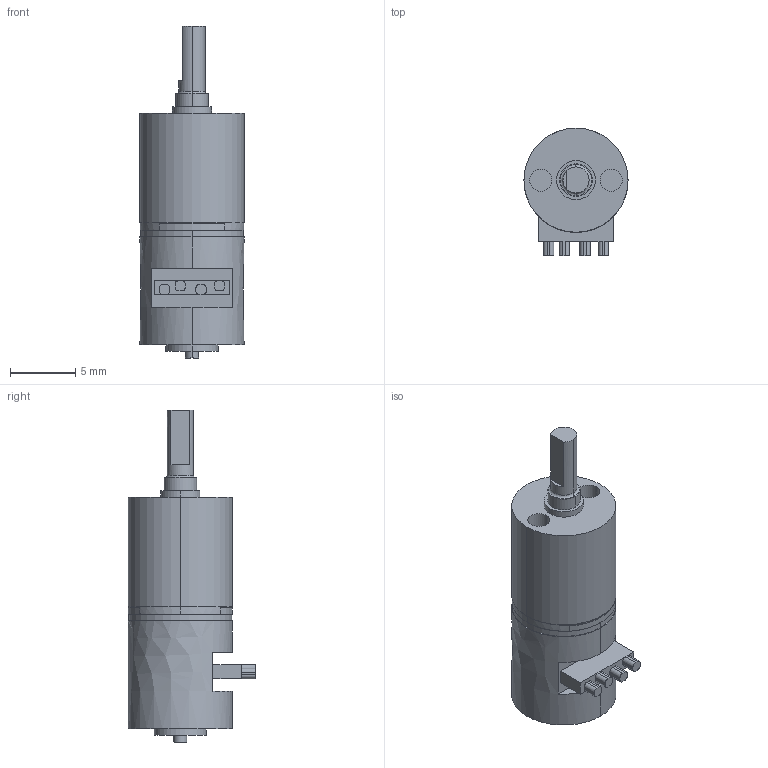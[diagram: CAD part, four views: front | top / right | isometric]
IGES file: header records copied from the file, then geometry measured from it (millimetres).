
Start section: SolidWorks IGES file using analytic representation for surfaces
Bounding box: 8 x 9.8 x 25.5 mm (x, y, z)
Volume: 905.1 mm3; surface area: 733.2 mm2
Topology: 1 solids, 4 shells, 114 faces, 566 edges, 754 vertices
Faces by surface type: plane 58, revolution 56
